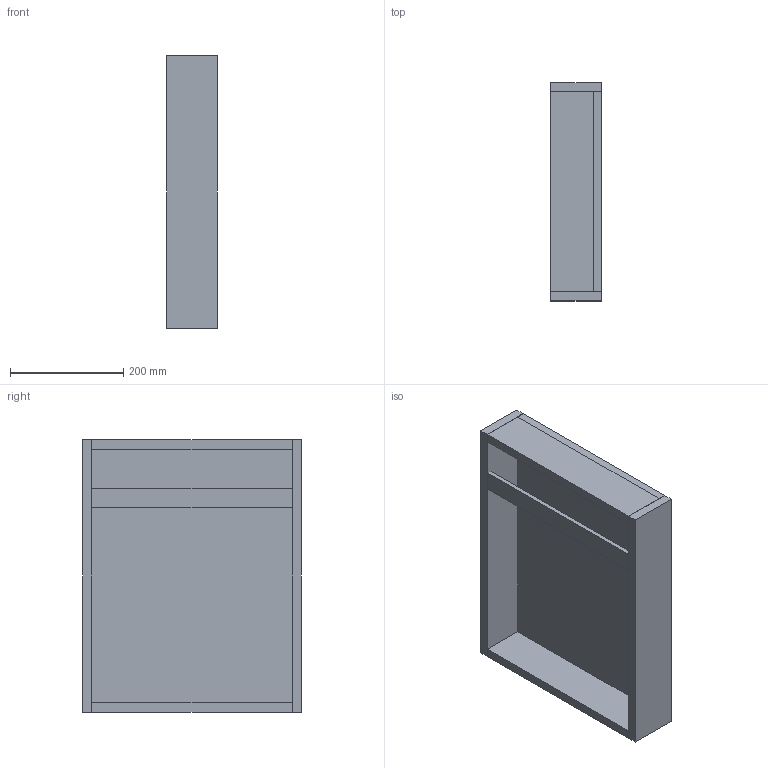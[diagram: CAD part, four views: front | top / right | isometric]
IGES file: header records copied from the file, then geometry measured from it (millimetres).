
Start section: Data from Parasolid IGES Translator 19.0.9, Copyright(c) 2006 Siemens PL M Software. All Rights Reserved.
Global section: file name: noorth-SI-H 48 D 38,8 W 9_8458.igs; native system: By Siemens PLM Incorporated; preprocessor: XPlus GENERIC/IGES 19.0.9; author: Noname; organization: Noname; date: 20200601.104007; units: metre
Bounding box: 90 x 385.86 x 480.8 mm (x, y, z)
Volume: 4727396 mm3; surface area: 739676.2 mm2
Topology: 6 solids, 6 shells, 36 faces, 72 edges, 48 vertices
Faces by surface type: plane 36
